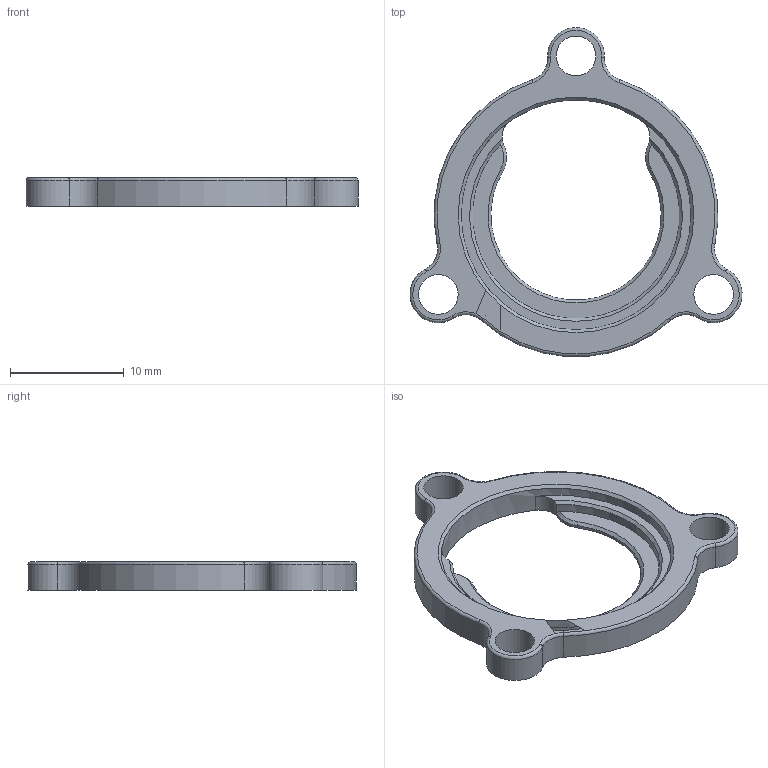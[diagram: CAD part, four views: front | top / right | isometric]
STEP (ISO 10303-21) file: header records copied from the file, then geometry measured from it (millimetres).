
FILE_DESCRIPTION(/* description */ (''),/* implementation_level */ '2;1');
FILE_NAME(/* name */ 'C:/Users/bodhe/OneDrive - Obvious Innovations LLC/Documents/Soberton Parts/Enclosure files/ec-003k.step',/* time_stamp */ '2021-04-26T18:11:49-05:00',/* author */ (''),/* organization */ (''),/* preprocessor_version */ 'ST-DEVELOPER v18.1',/* originating_system */ 'Autodesk Translation Framework v10.6.0.1341',/* authorisation */ '');
FILE_SCHEMA (('AUTOMOTIVE_DESIGN { 1 0 10303 214 3 1 1 }'));
Length unit declared in the file: millimetre
Products named in the file (1): ec-003k
Bounding box: 29.24 x 28.95 x 2.5 mm (x, y, z)
Volume: 584 mm3; surface area: 1046.4 mm2
Topology: 1 solids, 1 shells, 48 faces, 119 edges, 74 vertices
Faces by surface type: cylinder 23, torus 12, cone 7, plane 5, bspline 1
Full cylindrical faces by diameter (mm): 3.5 x3, 20.25 x1
Entity records: 1515 total; most frequent: DIRECTION 290, CARTESIAN_POINT 268, ORIENTED_EDGE 238, AXIS2_PLACEMENT_3D 130, EDGE_CURVE 119, CIRCLE 82, VERTEX_POINT 74, EDGE_LOOP 57
